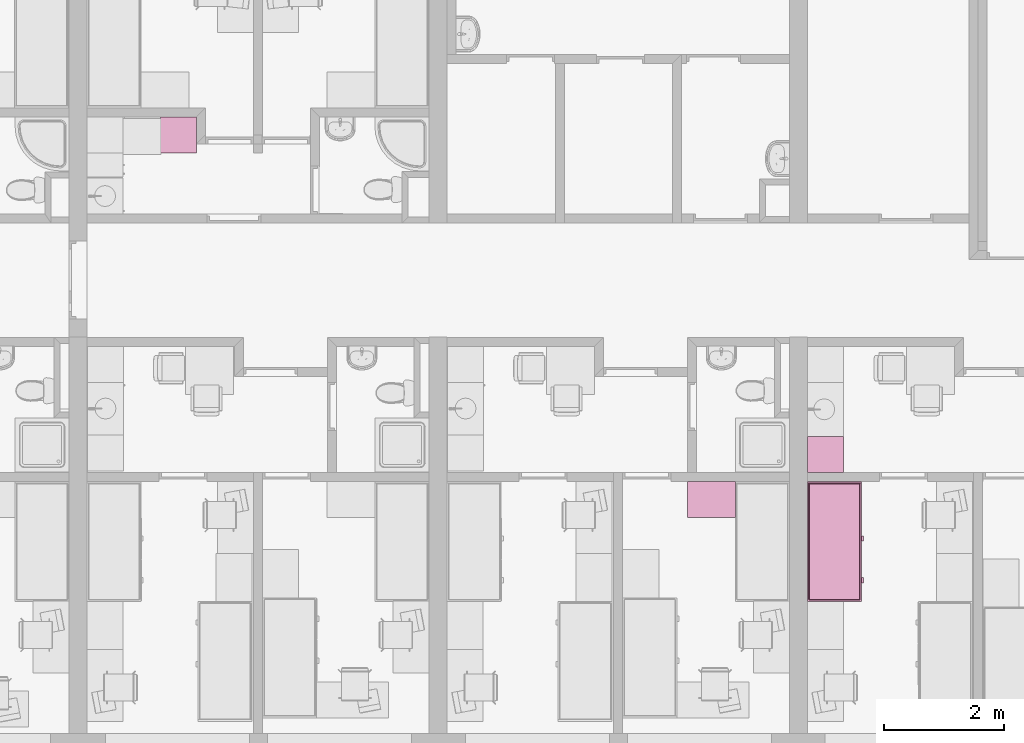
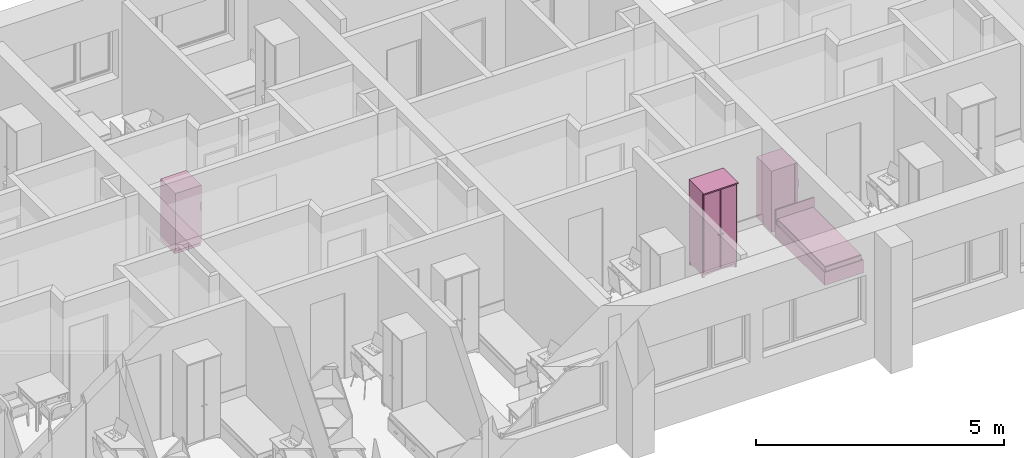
# One storey, part 108 of 172: 4 furnishings.
"""IFC2X3 building model written with IfcOpenShell, lengths in millimetres."""

from ifc_helpers import new_model, entity, si_unit, converted_unit, money_unit, direction, frame, origin_with_axes, place, context, subcontext, project, spatial, open_shell, faceted_brep, surface_model, source, transform, mapped, material, material_list, type_object, element, save


model = new_model("IFC2X3")

# Units and contexts
model_context = context("Model", 3, precision=1e-05, world=origin_with_axes(), true_north=direction((0.0, 1.0)))
body_context = subcontext(model_context, "Body", "Model", "MODEL_VIEW")
ifc_project = project(units=[si_unit("LENGTHUNIT", "METRE", prefix="MILLI"), si_unit("AREAUNIT", "SQUARE_METRE"), si_unit("VOLUMEUNIT", "CUBIC_METRE"), converted_unit("PLANEANGLEUNIT", "DEGREE", entity("IfcPlaneAngleMeasure", 0.0174532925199), si_unit("PLANEANGLEUNIT", "RADIAN"), dimensions=[0, 0, 0, 0, 0, 0, 0]), si_unit("SOLIDANGLEUNIT", "STERADIAN"), money_unit("USD"), converted_unit("TIMEUNIT", "Year", entity("IfcTimeMeasure", 31556926.0), si_unit("TIMEUNIT", "SECOND"), dimensions=[0, 0, 0, 0, 0, 0, 0]), si_unit("MASSUNIT", "GRAM"), si_unit("THERMODYNAMICTEMPERATUREUNIT", "DEGREE_CELSIUS"), si_unit("LUMINOUSINTENSITYUNIT", "LUMEN")], contexts=[model_context])

# Site, building, storey
site_placement = place(None, origin_with_axes())
site = spatial("IfcSite", under=ifc_project, at=site_placement, Name="Site", CompositionType="ELEMENT")
building_placement = place(site_placement, origin_with_axes())
building = spatial("IfcBuilding", under=site, at=building_placement, Name="Building", CompositionType="ELEMENT")
storey_placement = place(building_placement, frame((0.0, 0.0, 3200.0), z_axis=(0.0, 0.0, 1.0), x_axis=(1.0, 0.0, 0.0)))
storey = spatial("IfcBuildingStorey", under=building, at=storey_placement, Name="3KORRUS", CompositionType="ELEMENT", Elevation=3200.0)

# Furnishings
ifc_material = material(Name="Background")
ifc_material_list = material_list([ifc_material])
furnishing_element_type_1 = type_object("IfcFurnishingElementType", Name="Bed 19")
shared_shape_1 = source(origin_with_axes(), body_context, "Body", "Brep", [
    faceted_brep([(900.0, 1970.0, 0.0), (0.0, 1970.0, 0.0), (0.0, 2000.0, 0.0), (900.0, 2000.0, 0.0), (900.0, 1970.0, 660.0), (0.0, 1970.0, 660.0), (0.0, 2000.0, 660.0), (900.0, 2000.0, 660.0)], [[[0, 1, 2, 3]], [[1, 0, 4, 5]], [[2, 1, 5, 6]], [[3, 2, 6, 7]], [[0, 3, 7, 4]], [[5, 4, 7, 6]]]),
    faceted_brep([(900.0, 0.0, 0.0), (0.0, 0.0, 0.0), (0.0, 1970.0, 0.0), (900.0, 1970.0, 0.0), (900.0, 0.0, 320.0), (0.0, 0.0, 320.0), (0.0, 1970.0, 320.0), (900.0, 1970.0, 320.0)], [[[0, 1, 2, 3]], [[1, 0, 4, 5]], [[2, 1, 5, 6]], [[3, 2, 6, 7]], [[0, 3, 7, 4]], [[5, 4, 7, 6]]]),
    faceted_brep([(905.0, 10.0, 30.0), (900.0, 10.0, 30.0), (900.0, 695.0, 30.0), (905.0, 695.0, 30.0), (905.0, 10.0, 290.0), (900.0, 10.0, 290.0), (900.0, 695.0, 290.0), (905.0, 695.0, 290.0)], [[[0, 1, 2, 3]], [[1, 0, 4, 5]], [[2, 1, 5, 6]], [[3, 2, 6, 7]], [[0, 3, 7, 4]], [[5, 4, 7, 6]]]),
    faceted_brep([(935.0, 307.5, 150.0), (905.0, 307.5, 150.0), (905.0, 397.5, 150.0), (935.0, 397.5, 150.0), (935.0, 307.5, 170.0), (905.0, 307.5, 170.0), (905.0, 397.5, 170.0), (935.0, 397.5, 170.0)], [[[0, 1, 2, 3]], [[1, 0, 4, 5]], [[2, 1, 5, 6]], [[3, 2, 6, 7]], [[0, 3, 7, 4]], [[5, 4, 7, 6]]]),
    faceted_brep([(905.0, 705.0, 30.0), (900.0, 705.0, 30.0), (900.0, 1390.0, 30.0), (905.0, 1390.0, 30.0), (905.0, 705.0, 290.0), (900.0, 705.0, 290.0), (900.0, 1390.0, 290.0), (905.0, 1390.0, 290.0)], [[[0, 1, 2, 3]], [[1, 0, 4, 5]], [[2, 1, 5, 6]], [[3, 2, 6, 7]], [[0, 3, 7, 4]], [[5, 4, 7, 6]]]),
    faceted_brep([(935.0, 1002.5, 150.0), (905.0, 1002.5, 150.0), (905.0, 1092.5, 150.0), (935.0, 1092.5, 150.0), (935.0, 1002.5, 170.0), (905.0, 1002.5, 170.0), (905.0, 1092.5, 170.0), (935.0, 1092.5, 170.0)], [[[0, 1, 2, 3]], [[1, 0, 4, 5]], [[2, 1, 5, 6]], [[3, 2, 6, 7]], [[0, 3, 7, 4]], [[5, 4, 7, 6]]]),
    faceted_brep([(20.0, 40.0, 350.0), (20.0, 1950.0, 350.0), (21.522, 1957.654, 350.0), (25.858, 1964.142, 350.0), (32.346, 1968.478, 350.0), (40.0, 1970.0, 350.0), (860.0, 1970.0, 350.0), (867.654, 1968.478, 350.0), (874.142, 1964.142, 350.0), (878.478, 1957.654, 350.0), (880.0, 1950.0, 350.0), (880.0, 40.0, 350.0), (878.478, 32.346, 350.0), (874.142, 25.858, 350.0), (867.654, 21.522, 350.0), (860.0, 20.0, 350.0), (40.0, 20.0, 350.0), (32.346, 21.522, 350.0), (25.858, 25.858, 350.0), (21.522, 32.346, 350.0), (20.0, 40.0, 420.0), (20.0, 1950.0, 420.0), (21.522, 1957.654, 420.0), (25.858, 1964.142, 420.0), (32.346, 1968.478, 420.0), (40.0, 1970.0, 420.0), (860.0, 1970.0, 420.0), (867.654, 1968.478, 420.0), (874.142, 1964.142, 420.0), (878.478, 1957.654, 420.0), (880.0, 1950.0, 420.0), (880.0, 40.0, 420.0), (878.478, 32.346, 420.0), (874.142, 25.858, 420.0), (867.654, 21.522, 420.0), (860.0, 20.0, 420.0), (40.0, 20.0, 420.0), (32.346, 21.522, 420.0), (25.858, 25.858, 420.0), (21.522, 32.346, 420.0), (21.522, 40.15, 427.654), (21.522, 1949.85, 427.654), (22.956, 1957.06, 427.654), (26.955, 1963.045, 427.654), (32.94, 1967.044, 427.654), (40.15, 1968.478, 427.654), (859.85, 1968.478, 427.654), (867.06, 1967.044, 427.654), (873.045, 1963.045, 427.654), (877.044, 1957.06, 427.654), (878.478, 1949.85, 427.654), (878.478, 40.15, 427.654), (877.044, 32.94, 427.654), (873.045, 26.955, 427.654), (867.06, 22.956, 427.654), (859.85, 21.522, 427.654), (40.15, 21.522, 427.654), (32.94, 22.956, 427.654), (26.955, 26.955, 427.654), (22.956, 32.94, 427.654), (32.346, 41.216, 438.478), (32.346, 1948.784, 438.478), (33.152, 1952.836, 438.478), (34.759, 1955.241, 438.478), (37.164, 1956.848, 438.478), (41.216, 1957.654, 438.478), (858.784, 1957.654, 438.478), (862.836, 1956.848, 438.478), (865.241, 1955.241, 438.478), (866.848, 1952.836, 438.478), (867.654, 1948.784, 438.478), (867.654, 41.216, 438.478), (866.848, 37.164, 438.478), (865.241, 34.759, 438.478), (862.836, 33.152, 438.478), (858.784, 32.346, 438.478), (41.216, 32.346, 438.478), (37.164, 33.152, 438.478), (34.759, 34.759, 438.478), (33.152, 37.164, 438.478), (40.0, 41.97, 440.0), (40.0, 1948.03, 440.0), (40.327, 1949.673, 440.0), (40.0, 1950.0, 439.924), (41.97, 1950.0, 440.0), (858.03, 1950.0, 440.0), (859.673, 1949.673, 440.0), (860.0, 1950.0, 439.924), (860.0, 1948.03, 440.0), (860.0, 41.97, 440.0), (859.673, 40.327, 440.0), (860.0, 40.0, 439.924), (858.03, 40.0, 440.0), (41.97, 40.0, 440.0), (40.327, 40.327, 440.0), (40.0, 40.0, 439.924)], [[[0, 1, 2, 3, 4, 5, 6, 7, 8, 9, 10, 11, 12, 13, 14, 15, 16, 17, 18, 19]], [[1, 0, 20, 21]], [[2, 1, 21, 22]], [[3, 2, 22, 23]], [[4, 3, 23, 24]], [[5, 4, 24, 25]], [[6, 5, 25, 26]], [[7, 6, 26, 27]], [[8, 7, 27, 28]], [[9, 8, 28, 29]], [[10, 9, 29, 30]], [[11, 10, 30, 31]], [[12, 11, 31, 32]], [[13, 12, 32, 33]], [[14, 13, 33, 34]], [[15, 14, 34, 35]], [[16, 15, 35, 36]], [[17, 16, 36, 37]], [[18, 17, 37, 38]], [[19, 18, 38, 39]], [[0, 19, 39, 20]], [[21, 20, 40, 41]], [[22, 21, 41, 42]], [[23, 22, 42, 43]], [[24, 23, 43, 44]], [[25, 24, 44, 45]], [[26, 25, 45, 46]], [[27, 26, 46, 47]], [[28, 27, 47, 48]], [[29, 28, 48, 49]], [[30, 29, 49, 50]], [[31, 30, 50, 51]], [[32, 31, 51, 52]], [[33, 32, 52, 53]], [[34, 33, 53, 54]], [[35, 34, 54, 55]], [[36, 35, 55, 56]], [[37, 36, 56, 57]], [[38, 37, 57, 58]], [[39, 38, 58, 59]], [[20, 39, 59, 40]], [[41, 40, 60, 61]], [[42, 41, 61, 62]], [[43, 42, 62, 63]], [[44, 43, 63, 64]], [[45, 44, 64, 65]], [[46, 45, 65, 66]], [[47, 46, 66, 67]], [[48, 47, 67, 68]], [[49, 48, 68, 69]], [[50, 49, 69, 70]], [[51, 50, 70, 71]], [[52, 51, 71, 72]], [[53, 52, 72, 73]], [[54, 53, 73, 74]], [[55, 54, 74, 75]], [[56, 55, 75, 76]], [[57, 56, 76, 77]], [[58, 57, 77, 78]], [[59, 58, 78, 79]], [[40, 59, 79, 60]], [[61, 60, 80, 81]], [[62, 61, 81, 82, 83]], [[63, 62, 83]], [[64, 63, 83]], [[65, 64, 83, 82, 84]], [[66, 65, 84, 85]], [[67, 66, 85, 86, 87]], [[68, 67, 87]], [[69, 68, 87]], [[70, 69, 87, 86, 88]], [[71, 70, 88, 89]], [[72, 71, 89, 90, 91]], [[73, 72, 91]], [[74, 73, 91]], [[75, 74, 91, 90, 92]], [[76, 75, 92, 93]], [[77, 76, 93, 94, 95]], [[78, 77, 95]], [[79, 78, 95]], [[60, 79, 95, 94, 80]], [[81, 80, 94, 93, 92, 90, 89, 88, 86, 85, 84, 82]]]),
    faceted_brep([(20.0, 40.0, 350.0), (21.522, 32.346, 350.0), (25.858, 25.858, 350.0), (32.346, 21.522, 350.0), (40.0, 20.0, 350.0), (860.0, 20.0, 350.0), (867.654, 21.522, 350.0), (874.142, 25.858, 350.0), (878.478, 32.346, 350.0), (880.0, 40.0, 350.0), (880.0, 1950.0, 350.0), (878.478, 1957.654, 350.0), (874.142, 1964.142, 350.0), (867.654, 1968.478, 350.0), (860.0, 1970.0, 350.0), (40.0, 1970.0, 350.0), (32.346, 1968.478, 350.0), (25.858, 1964.142, 350.0), (21.522, 1957.654, 350.0), (20.0, 1950.0, 350.0), (20.0, 40.0, 320.0), (21.522, 32.346, 320.0), (25.858, 25.858, 320.0), (32.346, 21.522, 320.0), (40.0, 20.0, 320.0), (860.0, 20.0, 320.0), (867.654, 21.522, 320.0), (874.142, 25.858, 320.0), (878.478, 32.346, 320.0), (880.0, 40.0, 320.0), (880.0, 1950.0, 320.0), (878.478, 1957.654, 320.0), (874.142, 1964.142, 320.0), (867.654, 1968.478, 320.0), (860.0, 1970.0, 320.0), (40.0, 1970.0, 320.0), (32.346, 1968.478, 320.0), (25.858, 1964.142, 320.0), (21.522, 1957.654, 320.0), (20.0, 1950.0, 320.0)], [[[0, 1, 2, 3, 4, 5, 6, 7, 8, 9, 10, 11, 12, 13, 14, 15, 16, 17, 18, 19]], [[0, 20, 21, 1]], [[1, 21, 22, 2]], [[2, 22, 23, 3]], [[3, 23, 24, 4]], [[4, 24, 25, 5]], [[5, 25, 26, 6]], [[6, 26, 27, 7]], [[7, 27, 28, 8]], [[8, 28, 29, 9]], [[9, 29, 30, 10]], [[10, 30, 31, 11]], [[11, 31, 32, 12]], [[12, 32, 33, 13]], [[13, 33, 34, 14]], [[14, 34, 35, 15]], [[15, 35, 36, 16]], [[16, 36, 37, 17]], [[17, 37, 38, 18]], [[18, 38, 39, 19]], [[19, 39, 20, 0]], [[20, 39, 38, 37, 36, 35, 34, 33, 32, 31, 30, 29, 28, 27, 26, 25, 24, 23, 22, 21]]]),
])
furnishing_1_placement = place(storey_placement, frame((-23990.2967033, -17439.2398994, 0.0), z_axis=(0.0, 0.0, 1.0), x_axis=(1.0, 0.0, 0.0)))
element("IfcFurnishingElement", 1, at=furnishing_1_placement, inside=storey, type_object=furnishing_element_type_1, material=ifc_material_list, Name="FU - 013", context=body_context, shape_type="MappedRepresentation", body=[
    mapped(shared_shape_1, transform((0.0, 0.0, 0.0))),
])
furnishing_element_type_2 = type_object("IfcFurnishingElementType", Name="Cupboard 19")
shared_shape_2 = source(origin_with_axes(), body_context, "Body", "Brep", [
    faceted_brep([(780.0, 600.0, 120.0), (780.0, 600.0, 2050.0), (780.0, 580.0, 2050.0), (780.0, 580.0, 120.0), (20.0, 600.0, 120.0), (20.0, 600.0, 2050.0), (20.0, 580.0, 2050.0), (20.0, 580.0, 120.0)], [[[0, 1, 2, 3]], [[4, 5, 1, 0]], [[1, 5, 6, 2]], [[3, 2, 6, 7]], [[0, 3, 7, 4]], [[7, 6, 5, 4]]]),
    faceted_brep([(0.0, 50.0, 100.0), (0.0, 600.0, 100.0), (20.0, 600.0, 100.0), (20.0, 50.0, 100.0), (0.0, 50.0, 2070.0), (0.0, 600.0, 2070.0), (20.0, 600.0, 2070.0), (20.0, 50.0, 2070.0)], [[[0, 1, 2, 3]], [[0, 4, 5, 1]], [[1, 5, 6, 2]], [[2, 6, 7, 3]], [[3, 7, 4, 0]], [[7, 6, 5, 4]]]),
    faceted_brep([(780.0, 50.0, 100.0), (780.0, 600.0, 100.0), (800.0, 600.0, 100.0), (800.0, 50.0, 100.0), (780.0, 50.0, 2070.0), (780.0, 600.0, 2070.0), (800.0, 600.0, 2070.0), (800.0, 50.0, 2070.0)], [[[0, 1, 2, 3]], [[0, 4, 5, 1]], [[1, 5, 6, 2]], [[2, 6, 7, 3]], [[3, 7, 4, 0]], [[7, 6, 5, 4]]]),
    faceted_brep([(20.0, 50.0, 100.0), (20.0, 600.0, 100.0), (780.0, 600.0, 100.0), (780.0, 50.0, 100.0), (20.0, 50.0, 120.0), (20.0, 600.0, 120.0), (780.0, 600.0, 120.0), (780.0, 50.0, 120.0)], [[[0, 1, 2, 3]], [[0, 4, 5, 1]], [[1, 5, 6, 2]], [[2, 6, 7, 3]], [[3, 7, 4, 0]], [[7, 6, 5, 4]]]),
    faceted_brep([(20.0, 50.0, 2050.0), (20.0, 600.0, 2050.0), (780.0, 600.0, 2050.0), (780.0, 50.0, 2050.0), (20.0, 50.0, 2070.0), (20.0, 600.0, 2070.0), (780.0, 600.0, 2070.0), (780.0, 50.0, 2070.0)], [[[0, 1, 2, 3]], [[0, 4, 5, 1]], [[1, 5, 6, 2]], [[2, 6, 7, 3]], [[3, 7, 4, 0]], [[7, 6, 5, 4]]]),
    faceted_brep([(0.0, 600.0, 2070.0), (0.0, 0.0, 2070.0), (0.0, 0.0, 2100.0), (0.0, 600.0, 2100.0), (800.0, 600.0, 2070.0), (800.0, 0.0, 2070.0), (800.0, 0.0, 2100.0), (800.0, 600.0, 2100.0)], [[[0, 1, 2, 3]], [[0, 4, 5, 1]], [[1, 5, 6, 2]], [[3, 2, 6, 7]], [[4, 0, 3, 7]], [[5, 4, 7, 6]]]),
    faceted_brep([(760.0, 590.0, 25.0), (760.0, 570.0, 25.0), (640.962, 570.0, 45.8), (640.962, 590.0, 45.8), (760.0, 590.0, 100.0), (760.0, 570.0, 100.0), (40.0, 570.0, 100.0), (40.0, 570.0, 25.0), (159.038, 570.0, 45.8), (279.23, 570.0, 58.32), (400.0, 570.0, 62.5), (520.77, 570.0, 58.32), (520.77, 590.0, 58.32), (400.0, 590.0, 62.5), (279.23, 590.0, 58.32), (159.038, 590.0, 45.8), (40.0, 590.0, 25.0), (40.0, 590.0, 100.0)], [[[0, 1, 2, 3]], [[4, 5, 1, 0]], [[1, 5, 6, 7, 8, 9, 10, 11, 2]], [[3, 2, 11, 12]], [[0, 3, 12, 13, 14, 15, 16, 17, 4]], [[17, 6, 5, 4]], [[16, 7, 6, 17]], [[15, 8, 7, 16]], [[14, 9, 8, 15]], [[13, 10, 9, 14]], [[12, 11, 10, 13]]]),
    faceted_brep([(760.0, 80.0, 25.0), (760.0, 60.0, 25.0), (640.962, 60.0, 45.8), (640.962, 80.0, 45.8), (760.0, 80.0, 100.0), (760.0, 60.0, 100.0), (40.0, 60.0, 100.0), (40.0, 60.0, 25.0), (159.038, 60.0, 45.8), (279.23, 60.0, 58.32), (400.0, 60.0, 62.5), (520.77, 60.0, 58.32), (520.77, 80.0, 58.32), (400.0, 80.0, 62.5), (279.23, 80.0, 58.32), (159.038, 80.0, 45.8), (40.0, 80.0, 25.0), (40.0, 80.0, 100.0)], [[[0, 1, 2, 3]], [[4, 5, 1, 0]], [[1, 5, 6, 7, 8, 9, 10, 11, 2]], [[3, 2, 11, 12]], [[0, 3, 12, 13, 14, 15, 16, 17, 4]], [[17, 6, 5, 4]], [[16, 7, 6, 17]], [[15, 8, 7, 16]], [[14, 9, 8, 15]], [[13, 10, 9, 14]], [[12, 11, 10, 13]]]),
    faceted_brep([(790.0, 90.0, 25.0), (770.0, 90.0, 25.0), (770.0, 141.266, 38.072), (790.0, 141.266, 38.072), (790.0, 90.0, 100.0), (770.0, 90.0, 100.0), (770.0, 560.0, 100.0), (770.0, 560.0, 25.0), (770.0, 508.734, 38.072), (770.0, 456.752, 47.92), (770.0, 404.257, 54.508), (770.0, 351.453, 57.808), (770.0, 298.547, 57.808), (770.0, 245.743, 54.508), (770.0, 193.248, 47.92), (790.0, 193.248, 47.92), (790.0, 245.743, 54.508), (790.0, 298.547, 57.808), (790.0, 351.453, 57.808), (790.0, 404.257, 54.508), (790.0, 456.752, 47.92), (790.0, 508.734, 38.072), (790.0, 560.0, 25.0), (790.0, 560.0, 100.0)], [[[0, 1, 2, 3]], [[4, 5, 1, 0]], [[1, 5, 6, 7, 8, 9, 10, 11, 12, 13, 14, 2]], [[3, 2, 14, 15]], [[0, 3, 15, 16, 17, 18, 19, 20, 21, 22, 23, 4]], [[23, 6, 5, 4]], [[22, 7, 6, 23]], [[21, 8, 7, 22]], [[20, 9, 8, 21]], [[19, 10, 9, 20]], [[18, 11, 10, 19]], [[17, 12, 11, 18]], [[16, 13, 12, 17]], [[15, 14, 13, 16]]]),
    faceted_brep([(30.0, 90.0, 25.0), (10.0, 90.0, 25.0), (10.0, 141.266, 38.072), (30.0, 141.266, 38.072), (30.0, 90.0, 100.0), (10.0, 90.0, 100.0), (10.0, 560.0, 100.0), (10.0, 560.0, 25.0), (10.0, 508.734, 38.072), (10.0, 456.752, 47.92), (10.0, 404.257, 54.508), (10.0, 351.453, 57.808), (10.0, 298.547, 57.808), (10.0, 245.743, 54.508), (10.0, 193.248, 47.92), (30.0, 193.248, 47.92), (30.0, 245.743, 54.508), (30.0, 298.547, 57.808), (30.0, 351.453, 57.808), (30.0, 404.257, 54.508), (30.0, 456.752, 47.92), (30.0, 508.734, 38.072), (30.0, 560.0, 25.0), (30.0, 560.0, 100.0)], [[[0, 1, 2, 3]], [[4, 5, 1, 0]], [[1, 5, 6, 7, 8, 9, 10, 11, 12, 13, 14, 2]], [[3, 2, 14, 15]], [[0, 3, 15, 16, 17, 18, 19, 20, 21, 22, 23, 4]], [[23, 6, 5, 4]], [[22, 7, 6, 23]], [[21, 8, 7, 22]], [[20, 9, 8, 21]], [[19, 10, 9, 20]], [[18, 11, 10, 19]], [[17, 12, 11, 18]], [[16, 13, 12, 17]], [[15, 14, 13, 16]]]),
    faceted_brep([(760.0, 560.0, 0.0), (760.0, 560.0, 100.0), (760.0, 600.0, 100.0), (760.0, 600.0, 0.0), (800.0, 560.0, 0.0), (800.0, 560.0, 100.0), (800.0, 600.0, 100.0), (800.0, 600.0, 0.0)], [[[0, 1, 2, 3]], [[4, 5, 1, 0]], [[1, 5, 6, 2]], [[3, 2, 6, 7]], [[0, 3, 7, 4]], [[7, 6, 5, 4]]]),
    faceted_brep([(0.0, 560.0, 0.0), (0.0, 560.0, 100.0), (0.0, 600.0, 100.0), (0.0, 600.0, 0.0), (40.0, 560.0, 0.0), (40.0, 560.0, 100.0), (40.0, 600.0, 100.0), (40.0, 600.0, 0.0)], [[[0, 1, 2, 3]], [[4, 5, 1, 0]], [[1, 5, 6, 2]], [[3, 2, 6, 7]], [[0, 3, 7, 4]], [[7, 6, 5, 4]]]),
    faceted_brep([(760.0, 50.0, 0.0), (760.0, 50.0, 100.0), (760.0, 90.0, 100.0), (760.0, 90.0, 0.0), (800.0, 50.0, 0.0), (800.0, 50.0, 100.0), (800.0, 90.0, 100.0), (800.0, 90.0, 0.0)], [[[0, 1, 2, 3]], [[4, 5, 1, 0]], [[1, 5, 6, 2]], [[3, 2, 6, 7]], [[0, 3, 7, 4]], [[7, 6, 5, 4]]]),
    faceted_brep([(0.0, 50.0, 0.0), (0.0, 50.0, 100.0), (0.0, 90.0, 100.0), (0.0, 90.0, 0.0), (40.0, 50.0, 0.0), (40.0, 50.0, 100.0), (40.0, 90.0, 100.0), (40.0, 90.0, 0.0)], [[[0, 1, 2, 3]], [[4, 5, 1, 0]], [[1, 5, 6, 2]], [[3, 2, 6, 7]], [[0, 3, 7, 4]], [[7, 6, 5, 4]]]),
    faceted_brep([(780.0, 580.0, 587.5), (780.0, 580.0, 607.5), (780.0, 50.0, 607.5), (780.0, 50.0, 587.5), (20.0, 580.0, 587.5), (20.0, 580.0, 607.5), (20.0, 50.0, 607.5), (20.0, 50.0, 587.5)], [[[0, 1, 2, 3]], [[4, 5, 1, 0]], [[1, 5, 6, 2]], [[3, 2, 6, 7]], [[0, 3, 7, 4]], [[7, 6, 5, 4]]]),
    faceted_brep([(780.0, 580.0, 1075.0), (780.0, 580.0, 1095.0), (780.0, 50.0, 1095.0), (780.0, 50.0, 1075.0), (20.0, 580.0, 1075.0), (20.0, 580.0, 1095.0), (20.0, 50.0, 1095.0), (20.0, 50.0, 1075.0)], [[[0, 1, 2, 3]], [[4, 5, 1, 0]], [[1, 5, 6, 2]], [[3, 2, 6, 7]], [[0, 3, 7, 4]], [[7, 6, 5, 4]]]),
    faceted_brep([(780.0, 580.0, 1562.5), (780.0, 580.0, 1582.5), (780.0, 50.0, 1582.5), (780.0, 50.0, 1562.5), (20.0, 580.0, 1562.5), (20.0, 580.0, 1582.5), (20.0, 50.0, 1582.5), (20.0, 50.0, 1562.5)], [[[0, 1, 2, 3]], [[4, 5, 1, 0]], [[1, 5, 6, 2]], [[3, 2, 6, 7]], [[0, 3, 7, 4]], [[7, 6, 5, 4]]]),
    faceted_brep([(789.5, 50.0, 110.5), (400.5, 50.0, 110.5), (400.5, 50.0, 2059.5), (789.5, 50.0, 2059.5), (789.5, 40.0, 110.5), (400.5, 40.0, 110.5), (400.5, 40.0, 2059.5), (789.5, 40.0, 2059.5), (779.5, 30.0, 120.5), (410.5, 30.0, 120.5), (410.5, 30.0, 2049.5), (779.5, 30.0, 2049.5)], [[[0, 1, 2, 3]], [[0, 4, 5, 1]], [[1, 5, 6, 2]], [[2, 6, 7, 3]], [[3, 7, 4, 0]], [[4, 8, 9, 5]], [[5, 9, 10, 6]], [[6, 10, 11, 7]], [[7, 11, 8, 4]], [[10, 9, 8, 11]]]),
    faceted_brep([(399.5, 50.0, 110.5), (10.5, 50.0, 110.5), (10.5, 50.0, 2059.5), (399.5, 50.0, 2059.5), (399.5, 40.0, 110.5), (10.5, 40.0, 110.5), (10.5, 40.0, 2059.5), (399.5, 40.0, 2059.5), (389.5, 30.0, 120.5), (20.5, 30.0, 120.5), (20.5, 30.0, 2049.5), (389.5, 30.0, 2049.5)], [[[0, 1, 2, 3]], [[0, 4, 5, 1]], [[1, 5, 6, 2]], [[2, 6, 7, 3]], [[3, 7, 4, 0]], [[4, 8, 9, 5]], [[5, 9, 10, 6]], [[6, 10, 11, 7]], [[7, 11, 8, 4]], [[10, 9, 8, 11]]]),
    faceted_brep([(339.608, 30.0, 954.0), (338.0, 30.0, 960.0), (339.608, 30.0, 966.0), (344.0, 30.0, 970.392), (350.0, 30.0, 972.0), (356.0, 30.0, 970.392), (360.392, 30.0, 966.0), (362.0, 30.0, 960.0), (360.392, 30.0, 954.0), (356.0, 30.0, 949.608), (350.0, 30.0, 948.0), (344.0, 30.0, 949.608), (339.608, 5.0, 954.0), (338.0, 5.0, 960.0), (339.608, 5.0, 966.0), (344.0, 5.0, 970.392), (350.0, 5.0, 972.0), (356.0, 5.0, 970.392), (360.392, 5.0, 966.0), (362.0, 5.0, 960.0), (360.392, 5.0, 954.0), (356.0, 5.0, 949.608), (350.0, 5.0, 948.0), (344.0, 5.0, 949.608)], [[[0, 1, 2, 3, 4, 5, 6, 7, 8, 9, 10, 11]], [[0, 12, 13, 1]], [[1, 13, 14, 2]], [[2, 14, 15, 3]], [[3, 15, 16, 4]], [[4, 16, 17, 5]], [[5, 17, 18, 6]], [[6, 18, 19, 7]], [[7, 19, 20, 8]], [[8, 20, 21, 9]], [[9, 21, 22, 10]], [[10, 22, 23, 11]], [[11, 23, 12, 0]], [[12, 23, 22, 21, 20, 19, 18, 17, 16, 15, 14, 13]]]),
    faceted_brep([(460.392, 30.0, 954.0), (456.0, 30.0, 949.608), (450.0, 30.0, 948.0), (444.0, 30.0, 949.608), (439.608, 30.0, 954.0), (438.0, 30.0, 960.0), (439.608, 30.0, 966.0), (444.0, 30.0, 970.392), (450.0, 30.0, 972.0), (456.0, 30.0, 970.392), (460.392, 30.0, 966.0), (462.0, 30.0, 960.0), (460.392, 5.0, 954.0), (456.0, 5.0, 949.608), (450.0, 5.0, 948.0), (444.0, 5.0, 949.608), (439.608, 5.0, 954.0), (438.0, 5.0, 960.0), (439.608, 5.0, 966.0), (444.0, 5.0, 970.392), (450.0, 5.0, 972.0), (456.0, 5.0, 970.392), (460.392, 5.0, 966.0), (462.0, 5.0, 960.0)], [[[0, 1, 2, 3, 4, 5, 6, 7, 8, 9, 10, 11]], [[1, 0, 12, 13]], [[2, 1, 13, 14]], [[3, 2, 14, 15]], [[4, 3, 15, 16]], [[5, 4, 16, 17]], [[6, 5, 17, 18]], [[7, 6, 18, 19]], [[8, 7, 19, 20]], [[9, 8, 20, 21]], [[10, 9, 21, 22]], [[11, 10, 22, 23]], [[0, 11, 23, 12]], [[12, 23, 22, 21, 20, 19, 18, 17, 16, 15, 14, 13]]]),
])
furnishing_2_placement = place(storey_placement, frame((-25990.2967033, -16039.2398994, 0.0), z_axis=(0.0, 0.0, 1.0), x_axis=(1.0, 0.0, 0.0)))
element("IfcFurnishingElement", 2, at=furnishing_2_placement, inside=storey, type_object=furnishing_element_type_2, material=ifc_material_list, Name="FU - 014", context=body_context, shape_type="MappedRepresentation", body=[
    mapped(shared_shape_2, transform((0.0, 0.0, 0.0))),
])
furnishing_element_type_3 = type_object("IfcFurnishingElementType", Name="Refrigerator 19")
shared_shape_3 = source(origin_with_axes(), body_context, "Body", "SurfaceModel", [
    faceted_brep([(0.0, 0.0, 1475.0), (600.0, 0.0, 1475.0), (600.0, 0.0, 1500.0), (0.0, 0.0, 1500.0), (0.0, 600.0, 1475.0), (600.0, 600.0, 1475.0), (600.0, 600.0, 1500.0), (0.0, 600.0, 1500.0)], [[[0, 1, 2, 3]], [[0, 4, 5, 1]], [[1, 5, 6, 2]], [[3, 2, 6, 7]], [[4, 0, 3, 7]], [[5, 4, 7, 6]]]),
    faceted_brep([(0.0, 65.0, 0.0), (600.0, 65.0, 0.0), (600.0, 65.0, 1475.0), (0.0, 65.0, 1475.0), (0.0, 600.0, 0.0), (600.0, 600.0, 0.0), (600.0, 600.0, 1475.0), (0.0, 600.0, 1475.0)], [[[0, 1, 2, 3]], [[0, 4, 5, 1]], [[1, 5, 6, 2]], [[3, 2, 6, 7]], [[4, 0, 3, 7]], [[5, 4, 7, 6]]]),
    faceted_brep([(0.0, 30.0, 0.0), (600.0, 30.0, 0.0), (600.0, 30.0, 90.0), (0.0, 30.0, 90.0), (0.0, 60.0, 0.0), (600.0, 60.0, 0.0), (600.0, 60.0, 90.0), (0.0, 60.0, 90.0)], [[[0, 1, 2, 3]], [[0, 4, 5, 1]], [[1, 5, 6, 2]], [[3, 2, 6, 7]], [[4, 0, 3, 7]], [[5, 4, 7, 6]]]),
    faceted_brep([(0.0, 60.0, 90.0), (600.0, 60.0, 90.0), (600.0, 0.0, 90.0), (0.0, 0.0, 90.0), (0.0, 60.0, 1474.5), (600.0, 60.0, 1474.5), (600.0, 0.0, 1474.5), (0.0, 0.0, 1474.5)], [[[0, 1, 2, 3]], [[0, 4, 5, 1]], [[1, 5, 6, 2]], [[3, 2, 6, 7]], [[4, 0, 3, 7]], [[5, 4, 7, 6]]]),
    surface_model("IfcShellBasedSurfaceModel", [(600.0, -30.0, 900.0), (600.0, -30.0, 1100.0), (600.0, 0.0, 1100.0), (600.0, 0.0, 900.0)], [open_shell([[[0, 1, 2, 3]]])]),
    surface_model("IfcShellBasedSurfaceModel", [(600.0, -30.0, 900.0), (600.0, -30.0, 1100.0), (570.0, -30.0, 1100.0), (570.0, -30.0, 900.0)], [open_shell([[[0, 1, 2, 3]]])]),
])
furnishing_3_placement = place(storey_placement, frame((-34765.7435229, -9967.37850445, 0.0), z_axis=(0.0, 0.0, 1.0), x_axis=(1.0, 0.0, 0.0)))
element("IfcFurnishingElement", 3, at=furnishing_3_placement, inside=storey, type_object=furnishing_element_type_3, material=ifc_material_list, Name="FU - 007", context=body_context, shape_type="MappedRepresentation", body=[
    mapped(shared_shape_3, transform((0.0, 0.0, 0.0))),
])
shared_shape_4 = source(origin_with_axes(), body_context, "Body", "SurfaceModel", [
    faceted_brep([(0.0, 0.0, 1475.0), (0.0, 0.0, 1500.0), (-600.0, 0.0, 1500.0), (-600.0, 0.0, 1475.0), (0.0, 600.0, 1475.0), (0.0, 600.0, 1500.0), (-600.0, 600.0, 1500.0), (-600.0, 600.0, 1475.0)], [[[0, 1, 2, 3]], [[4, 5, 1, 0]], [[1, 5, 6, 2]], [[3, 2, 6, 7]], [[0, 3, 7, 4]], [[7, 6, 5, 4]]]),
    faceted_brep([(0.0, 65.0, 0.0), (0.0, 65.0, 1475.0), (-600.0, 65.0, 1475.0), (-600.0, 65.0, 0.0), (0.0, 600.0, 0.0), (0.0, 600.0, 1475.0), (-600.0, 600.0, 1475.0), (-600.0, 600.0, 0.0)], [[[0, 1, 2, 3]], [[4, 5, 1, 0]], [[1, 5, 6, 2]], [[3, 2, 6, 7]], [[0, 3, 7, 4]], [[7, 6, 5, 4]]]),
    faceted_brep([(0.0, 30.0, 0.0), (0.0, 30.0, 90.0), (-600.0, 30.0, 90.0), (-600.0, 30.0, 0.0), (0.0, 60.0, 0.0), (0.0, 60.0, 90.0), (-600.0, 60.0, 90.0), (-600.0, 60.0, 0.0)], [[[0, 1, 2, 3]], [[4, 5, 1, 0]], [[1, 5, 6, 2]], [[3, 2, 6, 7]], [[0, 3, 7, 4]], [[7, 6, 5, 4]]]),
    faceted_brep([(0.0, 60.0, 90.0), (0.0, 0.0, 90.0), (-600.0, 0.0, 90.0), (-600.0, 60.0, 90.0), (0.0, 60.0, 1474.5), (0.0, 0.0, 1474.5), (-600.0, 0.0, 1474.5), (-600.0, 60.0, 1474.5)], [[[0, 1, 2, 3]], [[4, 5, 1, 0]], [[1, 5, 6, 2]], [[3, 2, 6, 7]], [[0, 3, 7, 4]], [[7, 6, 5, 4]]]),
    surface_model("IfcShellBasedSurfaceModel", [(-600.0, -30.0, 900.0), (-600.0, 0.0, 900.0), (-600.0, 0.0, 1100.0), (-600.0, -30.0, 1100.0)], [open_shell([[[0, 1, 2, 3]]])]),
    surface_model("IfcShellBasedSurfaceModel", [(-600.0, -30.0, 900.0), (-570.0, -30.0, 900.0), (-570.0, -30.0, 1100.0), (-600.0, -30.0, 1100.0)], [open_shell([[[0, 1, 2, 3]]])]),
])
furnishing_4_placement = place(storey_placement, frame((-23384.008308, -14689.2398994, 0.0), z_axis=(0.0, 0.0, 1.0), x_axis=(0.0, 1.0, 0.0)))
element("IfcFurnishingElement", 4, at=furnishing_4_placement, inside=storey, type_object=furnishing_element_type_3, material=ifc_material_list, Name="FU - 007", context=body_context, shape_type="MappedRepresentation", body=[
    mapped(shared_shape_4, transform((0.0, 0.0, 0.0))),
])

save(model, "model.ifc")
